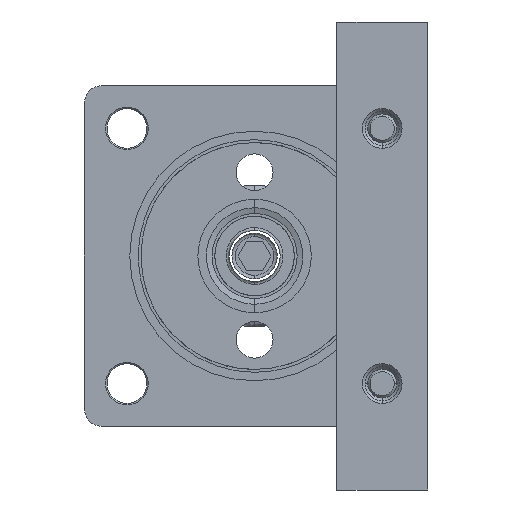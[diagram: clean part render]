
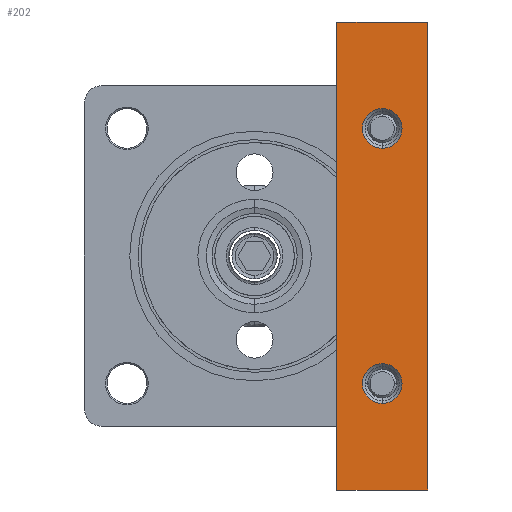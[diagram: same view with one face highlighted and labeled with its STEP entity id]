
A CAD part, left-side view. The second image highlights one B-rep face of the part: STEP entity #202.
In plain terms, the highlighted planar face has unit normal (-1, 0, 0).
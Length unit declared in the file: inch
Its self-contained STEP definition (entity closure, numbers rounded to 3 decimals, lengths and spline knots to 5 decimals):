
#202 = ADVANCED_FACE ( 'NONE', ( #849, #486, #1017 ), #10238, .F. ) ;
#343 = VECTOR ( 'NONE', #5532, 39.37008 ) ;
#486 = FACE_BOUND ( 'NONE', #4297, .T. ) ;
#849 = FACE_OUTER_BOUND ( 'NONE', #11970, .T. ) ;
#1017 = FACE_BOUND ( 'NONE', #9730, .T. ) ;
#1369 = DIRECTION ( 'NONE',  ( 0., 0., 1. ) ) ;
#1386 = DIRECTION ( 'NONE',  ( -1., 0., 0. ) ) ;
#1387 = CARTESIAN_POINT ( 'NONE',  ( -2.1063, -1.77165, 1.77165 ) ) ;
#1464 = AXIS2_PLACEMENT_3D ( 'NONE', #10306, #10310, #4670 ) ;
#1554 = EDGE_CURVE ( 'NONE', #8133, #1834, #2329, .T. ) ;
#1771 = CARTESIAN_POINT ( 'NONE',  ( -2.1063, -1.77165, -1.49606 ) ) ;
#1834 = VERTEX_POINT ( 'NONE', #11000 ) ;
#2231 = EDGE_CURVE ( 'NONE', #1834, #9340, #13289, .T. ) ;
#2329 = LINE ( 'NONE', #13391, #12983 ) ;
#2524 = DIRECTION ( 'NONE',  ( 0., 0., 1. ) ) ;
#2525 = DIRECTION ( 'NONE',  ( -1., 0., 0. ) ) ;
#2538 = CARTESIAN_POINT ( 'NONE',  ( -2.1063, -1.77165, 1.77165 ) ) ;
#2649 = VERTEX_POINT ( 'NONE', #6816 ) ;
#2663 = AXIS2_PLACEMENT_3D ( 'NONE', #2538, #2525, #2524 ) ;
#2899 = ORIENTED_EDGE ( 'NONE', *, *, #1554, .T. ) ;
#2902 = EDGE_CURVE ( 'NONE', #9340, #9423, #4302, .T. ) ;
#3043 = DIRECTION ( 'NONE',  ( 0., 0., 1. ) ) ;
#3045 = DIRECTION ( 'NONE',  ( -1., 0., 0. ) ) ;
#3056 = CARTESIAN_POINT ( 'NONE',  ( -2.1063, -1.77165, -1.77165 ) ) ;
#3057 = ORIENTED_EDGE ( 'NONE', *, *, #2231, .T. ) ;
#3197 = CARTESIAN_POINT ( 'NONE',  ( -2.1063, -1.14173, 3.24803 ) ) ;
#3225 = CIRCLE ( 'NONE', #8317, 0.27559 ) ;
#3509 = EDGE_CURVE ( 'NONE', #13872, #2649, #5862, .T. ) ;
#3594 = EDGE_CURVE ( 'NONE', #13235, #10475, #5546, .T. ) ;
#3752 = CARTESIAN_POINT ( 'NONE',  ( -2.1063, -2.40157, 3.24803 ) ) ;
#4014 = DIRECTION ( 'NONE',  ( 0., 0., 1. ) ) ;
#4027 = DIRECTION ( 'NONE',  ( -1., 0., 0. ) ) ;
#4043 = CARTESIAN_POINT ( 'NONE',  ( -2.1063, -1.77165, -1.77165 ) ) ;
#4229 = ORIENTED_EDGE ( 'NONE', *, *, #9886, .T. ) ;
#4297 = EDGE_LOOP ( 'NONE', ( #5271, #5354 ) ) ;
#4302 = LINE ( 'NONE', #5505, #343 ) ;
#4670 = DIRECTION ( 'NONE',  ( 0., 0., -1. ) ) ;
#5142 = ORIENTED_EDGE ( 'NONE', *, *, #2902, .T. ) ;
#5271 = ORIENTED_EDGE ( 'NONE', *, *, #3594, .F. ) ;
#5354 = ORIENTED_EDGE ( 'NONE', *, *, #13687, .F. ) ;
#5487 = ORIENTED_EDGE ( 'NONE', *, *, #3509, .F. ) ;
#5505 = CARTESIAN_POINT ( 'NONE',  ( -2.1063, -1.14173, 3.24803 ) ) ;
#5532 = DIRECTION ( 'NONE',  ( 0., 1., 0. ) ) ;
#5546 = CIRCLE ( 'NONE', #6199, 0.27559 ) ;
#5862 = CIRCLE ( 'NONE', #11581, 0.27559 ) ;
#6144 = CIRCLE ( 'NONE', #2663, 0.27559 ) ;
#6199 = AXIS2_PLACEMENT_3D ( 'NONE', #1387, #1386, #1369 ) ;
#6621 = CARTESIAN_POINT ( 'NONE',  ( -2.1063, -1.77165, 2.04724 ) ) ;
#6678 = CARTESIAN_POINT ( 'NONE',  ( -2.1063, -1.77165, 1.49606 ) ) ;
#6816 = CARTESIAN_POINT ( 'NONE',  ( -2.1063, -1.77165, -2.04724 ) ) ;
#7226 = VECTOR ( 'NONE', #13248, 39.37008 ) ;
#7246 = ORIENTED_EDGE ( 'NONE', *, *, #13451, .F. ) ;
#8133 = VERTEX_POINT ( 'NONE', #11902 ) ;
#8317 = AXIS2_PLACEMENT_3D ( 'NONE', #4043, #4027, #4014 ) ;
#8938 = DIRECTION ( 'NONE',  ( 0., 0., 1. ) ) ;
#9149 = CARTESIAN_POINT ( 'NONE',  ( -2.1063, -2.40157, 3.24803 ) ) ;
#9340 = VERTEX_POINT ( 'NONE', #3752 ) ;
#9423 = VERTEX_POINT ( 'NONE', #3197 ) ;
#9730 = EDGE_LOOP ( 'NONE', ( #5487, #7246 ) ) ;
#9886 = EDGE_CURVE ( 'NONE', #9423, #8133, #12565, .T. ) ;
#10238 = PLANE ( 'NONE',  #1464 ) ;
#10306 = CARTESIAN_POINT ( 'NONE',  ( -2.1063, -2.40157, 3.24803 ) ) ;
#10310 = DIRECTION ( 'NONE',  ( 1., 0., 0. ) ) ;
#10475 = VERTEX_POINT ( 'NONE', #6678 ) ;
#11000 = CARTESIAN_POINT ( 'NONE',  ( -2.1063, -2.40157, -3.24803 ) ) ;
#11581 = AXIS2_PLACEMENT_3D ( 'NONE', #3056, #3045, #3043 ) ;
#11605 = VECTOR ( 'NONE', #8938, 39.37008 ) ;
#11902 = CARTESIAN_POINT ( 'NONE',  ( -2.1063, -1.14173, -3.24803 ) ) ;
#11970 = EDGE_LOOP ( 'NONE', ( #4229, #2899, #3057, #5142 ) ) ;
#12565 = LINE ( 'NONE', #13230, #7226 ) ;
#12983 = VECTOR ( 'NONE', #13914, 39.37008 ) ;
#13230 = CARTESIAN_POINT ( 'NONE',  ( -2.1063, -1.14173, 3.24803 ) ) ;
#13235 = VERTEX_POINT ( 'NONE', #6621 ) ;
#13248 = DIRECTION ( 'NONE',  ( 0., 0., -1. ) ) ;
#13289 = LINE ( 'NONE', #9149, #11605 ) ;
#13391 = CARTESIAN_POINT ( 'NONE',  ( -2.1063, -1.14173, -3.24803 ) ) ;
#13451 = EDGE_CURVE ( 'NONE', #2649, #13872, #3225, .T. ) ;
#13687 = EDGE_CURVE ( 'NONE', #10475, #13235, #6144, .T. ) ;
#13872 = VERTEX_POINT ( 'NONE', #1771 ) ;
#13914 = DIRECTION ( 'NONE',  ( 0., -1., 0. ) ) ;
